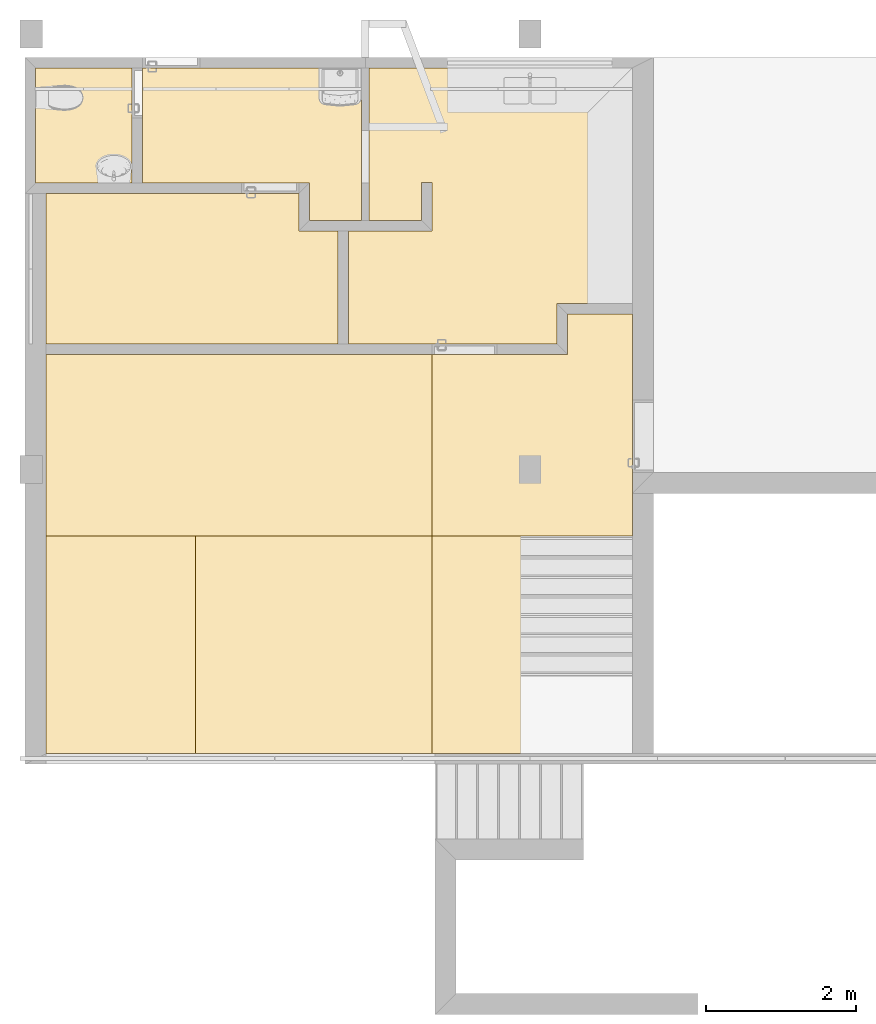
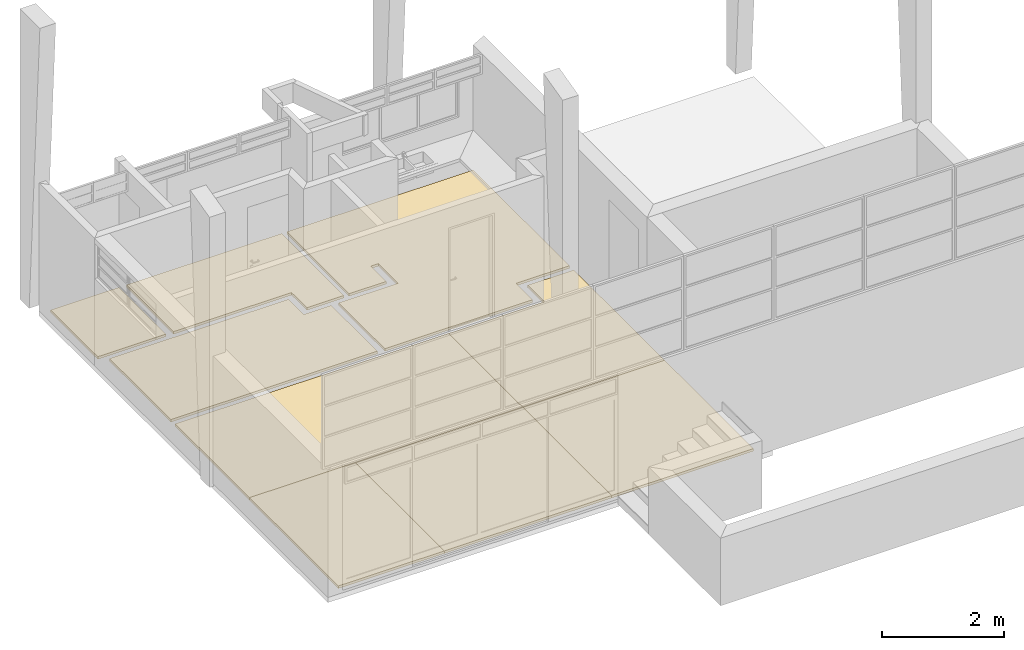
# One storey, part 13 of 16: 9 coverings.
"""IFC2X3 building model written with IfcOpenShell, lengths in millimetres."""

from ifc_helpers import new_model, entity, si_unit, converted_unit, derived_unit, money_unit, direction, frame, origin_with_axes, place, context, subcontext, project, spatial, polyline, outline, extrude, material, type_object, element, save


model = new_model("IFC2X3")

# Units and contexts
model_context = context("Model", 3, precision=0.01, world=origin_with_axes(), true_north=direction((0.293984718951, 0.955810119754)))
body_context = subcontext(model_context, "Body", "Model", "MODEL_VIEW")
ifc_project = project(units=[si_unit("LENGTHUNIT", "METRE", prefix="MILLI"), si_unit("AREAUNIT", "SQUARE_METRE"), si_unit("VOLUMEUNIT", "CUBIC_METRE"), converted_unit("PLANEANGLEUNIT", "DEGREE", entity("IfcPlaneAngleMeasure", 0.0174532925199), si_unit("PLANEANGLEUNIT", "RADIAN"), dimensions=[0, 0, 0, 0, 0, 0, 0]), si_unit("SOLIDANGLEUNIT", "STERADIAN"), money_unit("USD"), converted_unit("TIMEUNIT", "Year", entity("IfcTimeMeasure", 31556926.0), si_unit("TIMEUNIT", "SECOND"), dimensions=[0, 0, 1, 0, 0, 0, 0]), si_unit("MASSUNIT", "GRAM", prefix="KILO"), si_unit("THERMODYNAMICTEMPERATUREUNIT", "DEGREE_CELSIUS"), si_unit("LUMINOUSINTENSITYUNIT", "LUMEN"), si_unit("ENERGYUNIT", "JOULE", prefix="MEGA"), derived_unit("THERMALCONDUCTANCEUNIT", [(si_unit("POWERUNIT", "WATT"), 1), (si_unit("LENGTHUNIT", "METRE"), -1), (si_unit("THERMODYNAMICTEMPERATUREUNIT", "KELVIN"), -1)]), derived_unit("SPECIFICHEATCAPACITYUNIT", [(si_unit("ENERGYUNIT", "JOULE"), 1), (si_unit("MASSUNIT", "GRAM", prefix="KILO"), -1), (si_unit("THERMODYNAMICTEMPERATUREUNIT", "KELVIN"), -1)]), derived_unit("MASSDENSITYUNIT", [(si_unit("MASSUNIT", "GRAM", prefix="KILO"), 1), (si_unit("VOLUMEUNIT", "CUBIC_METRE"), -1)])], contexts=[model_context])

# Site, building, storey
site_placement = place(None, origin_with_axes())
site = spatial("IfcSite", under=ifc_project, at=site_placement, Name="Local", CompositionType="ELEMENT")
building_placement = place(site_placement, origin_with_axes())
building = spatial("IfcBuilding", under=site, at=building_placement, Name="Construção", CompositionType="ELEMENT")
storey_placement = place(building_placement, origin_with_axes())
storey = spatial("IfcBuildingStorey", under=building, at=storey_placement, Name="Pavimento Térreo", CompositionType="ELEMENT", Elevation=0.0)

# Coverings
ifc_material = material(Name="GENÉRICO - REV.  INTERNO")
covering_type = type_object("IfcCoveringType", Name="GENÉRICO - REV.  INTERNO 50", PredefinedType="FLOORING")
covering_1_placement = place(storey_placement, frame((7219.64507267, 11120.6321979, 50.0), z_axis=(0.0, 0.0, 1.0), x_axis=(1.0, 0.0, 0.0)))
element("IfcCovering", 1, at=covering_1_placement, inside=storey, type_object=covering_type, material=ifc_material, Name="Piso", PredefinedType="FLOORING", context=body_context, shape_type="SweptSolid", body=[
    extrude(outline(polyline([(0.0, 0.0), (1289.99999344, 0.0), (1289.99999344, 1540.0), (0.0, 1540.0), (0.0, 0.0)])), origin_with_axes(), (0.0, 0.0, 1.0), 50.0),
])
covering_2_placement = place(storey_placement, frame((11579.6450727, 12660.632211, 50.0), z_axis=(0.0, 0.0, 1.0), x_axis=(1.0, 0.0, 0.0)))
element("IfcCovering", 2, at=covering_2_placement, inside=storey, type_object=covering_type, material=ifc_material, Name="Piso", PredefinedType="FLOORING", context=body_context, shape_type="SweptSolid", body=[
    extrude(outline(polyline([(0.0, 0.0), (-2930.0, 0.0), (-2930.0, -1539.99999791), (-699.999995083, -1539.99999791), (-699.999995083, -2040.00001311), (0.0, -2040.00001311), (0.0, 0.0)])), origin_with_axes(), (0.0, 0.0, 1.0), 50.0),
])
covering_3_placement = place(storey_placement, frame((12519.6450846, 10480.6322039, 50.0), z_axis=(0.0, 0.0, 1.0), x_axis=(1.0, 0.0, 0.0)))
element("IfcCovering", 3, at=covering_3_placement, inside=storey, type_object=covering_type, material=ifc_material, Name="Piso", PredefinedType="FLOORING", context=body_context, shape_type="SweptSolid", body=[
    extrude(outline(polyline([(0.0, 0.0), (-1120.00001193, 0.0), (-1120.00001193, -1510.00000597), (1669.99996723, -1510.00000597), (1669.99996723, -969.999988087), (2679.9999881, -969.999988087), (2679.9999881, 2180.000003), (-840.000008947, 2180.000003), (-840.000008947, 139.999973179), (-140.000029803, 139.999973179), (-140.000029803, 643.795552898), (0.0, 643.795552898), (0.0, 0.0)])), origin_with_axes(), (0.0, 0.0, 1.0), 50.0),
])
covering_4_placement = place(storey_placement, frame((7359.64507267, 8970.6321979, 50.0), z_axis=(0.0, 0.0, 1.0), x_axis=(1.0, 0.0, 0.0)))
element("IfcCovering", 4, at=covering_4_placement, inside=storey, type_object=covering_type, material=ifc_material, Name="Piso", PredefinedType="FLOORING", context=body_context, shape_type="SweptSolid", body=[
    extrude(outline(polyline([(0.0, 0.0), (3900.0, 0.0), (3900.0, 1510.00001341), (3380.0, 1510.00001341), (3380.0, 2009.99999553), (0.0, 2009.99999553), (0.0, 0.0)])), origin_with_axes(), (0.0, 0.0, 1.0), 50.0),
])
covering_5_placement = place(storey_placement, frame((7359.64507267, 6400.63219788, 50.0), z_axis=(0.0, 0.0, 1.0), x_axis=(1.0, 0.0, 0.0)))
element("IfcCovering", 5, at=covering_5_placement, inside=storey, type_object=covering_type, material=ifc_material, Name="Piso", PredefinedType="FLOORING", context=body_context, shape_type="SweptSolid", body=[
    extrude(outline(polyline([(0.0, 0.0), (5160.0, 0.0), (5160.0, 2429.99996246), (0.0, 2429.99996246), (0.0, 0.0)])), origin_with_axes(), (0.0, 0.0, 1.0), 50.0),
])
covering_6_placement = place(storey_placement, frame((12519.6450727, 6400.63219788, 50.0), z_axis=(0.0, 0.0, 1.0), x_axis=(1.0, 0.0, 0.0)))
element("IfcCovering", 6, at=covering_6_placement, inside=storey, type_object=covering_type, material=ifc_material, Name="Piso", PredefinedType="FLOORING", context=body_context, shape_type="SweptSolid", body=[
    extrude(outline(polyline([(0.0, 0.0), (2679.99998574, 0.0), (2679.99998574, 2970.00000002), (1810.0000215, 2970.00000002), (1810.0000215, 2429.99998213), (0.0, 2429.99998213), (0.0, 0.0)])), origin_with_axes(), (0.0, 0.0, 1.0), 50.0),
])
covering_7_placement = place(storey_placement, frame((15199.6450566, 6400.63219788, 50.0), z_axis=(0.0, 0.0, 1.0), x_axis=(1.0, 0.0, 0.0)))
element("IfcCovering", 7, at=covering_7_placement, inside=storey, type_object=covering_type, material=ifc_material, Name="Piso", PredefinedType="FLOORING", context=body_context, shape_type="SweptSolid", body=[
    extrude(outline(polyline([(0.0, 0.0), (-2680.23045061, 0.0), (-2680.23045061, -2910.0), (0.0, -2910.0), (0.0, 0.0)])), origin_with_axes(), (0.0, 0.0, 1.0), 50.0),
])
covering_8_placement = place(storey_placement, frame((9359.64507267, 3490.63219788, 50.0), z_axis=(0.0, 0.0, 1.0), x_axis=(1.0, 0.0, 0.0)))
element("IfcCovering", 8, at=covering_8_placement, inside=storey, type_object=covering_type, material=ifc_material, Name="Piso", PredefinedType="FLOORING", context=body_context, shape_type="SweptSolid", body=[
    extrude(outline(polyline([(0.0, 0.0), (3159.76953332, 0.0), (3159.76953332, 2910.0), (0.0, 2910.0), (0.0, 0.0)])), origin_with_axes(), (0.0, 0.0, 1.0), 50.0),
])
covering_9_placement = place(storey_placement, frame((7359.64507267, 3490.63219788, 50.0), z_axis=(0.0, 0.0, 1.0), x_axis=(1.0, 0.0, 0.0)))
element("IfcCovering", 9, at=covering_9_placement, inside=storey, type_object=covering_type, material=ifc_material, Name="Piso", PredefinedType="FLOORING", context=body_context, shape_type="SweptSolid", body=[
    extrude(outline(polyline([(0.0, 0.0), (2000.0, 0.0), (2000.0, 2910.0), (0.0, 2910.0), (0.0, 0.0)])), origin_with_axes(), (0.0, 0.0, 1.0), 50.0),
])

save(model, "model.ifc")
